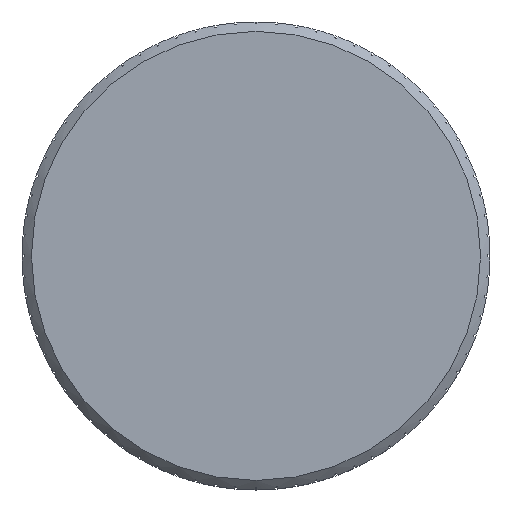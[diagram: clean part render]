
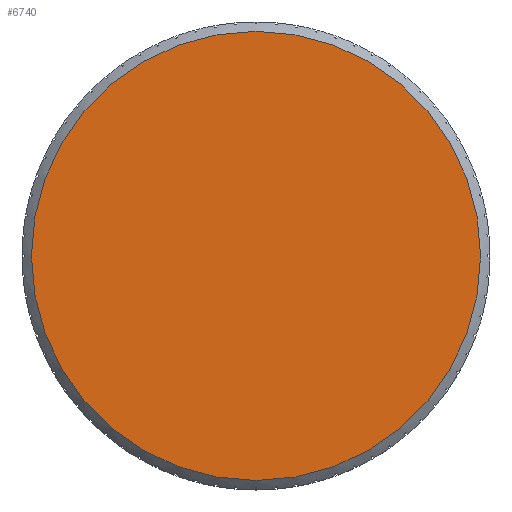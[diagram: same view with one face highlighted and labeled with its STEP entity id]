
A CAD part, top view. The second image highlights one B-rep face of the part: STEP entity #6740.
In plain terms, the highlighted planar face has unit normal (0, 0, 1).
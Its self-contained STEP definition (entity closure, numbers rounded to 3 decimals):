
#22=PLANE('',#7411);
#453=FACE_OUTER_BOUND('',#796,.T.);
#796=EDGE_LOOP('',(#5565,#5566));
#1056=CIRCLE('',#7102,14.4);
#1057=CIRCLE('',#7103,14.4);
#2808=VERTEX_POINT('',#11415);
#2809=VERTEX_POINT('',#11417);
#3568=EDGE_CURVE('',#2809,#2808,#1056,.T.);
#3569=EDGE_CURVE('',#2808,#2809,#1057,.T.);
#5565=ORIENTED_EDGE('',*,*,#3568,.T.);
#5566=ORIENTED_EDGE('',*,*,#3569,.T.);
#6740=ADVANCED_FACE('',(#453),#22,.T.);
#7102=AXIS2_PLACEMENT_3D('',#11418,#7995,#7996);
#7103=AXIS2_PLACEMENT_3D('',#11419,#7997,#7998);
#7411=AXIS2_PLACEMENT_3D('',#14018,#8977,#8978);
#7995=DIRECTION('center_axis',(0.,0.,1.));
#7996=DIRECTION('ref_axis',(1.,0.,0.));
#7997=DIRECTION('center_axis',(0.,0.,1.));
#7998=DIRECTION('ref_axis',(1.,0.,0.));
#8977=DIRECTION('center_axis',(0.,0.,1.));
#8978=DIRECTION('ref_axis',(1.,0.,0.));
#11415=CARTESIAN_POINT('',(14.4,0.,18.));
#11417=CARTESIAN_POINT('',(-14.4,0.,18.));
#11418=CARTESIAN_POINT('Origin',(0.,0.,18.));
#11419=CARTESIAN_POINT('Origin',(0.,0.,18.));
#14018=CARTESIAN_POINT('Origin',(0.,0.,18.));
